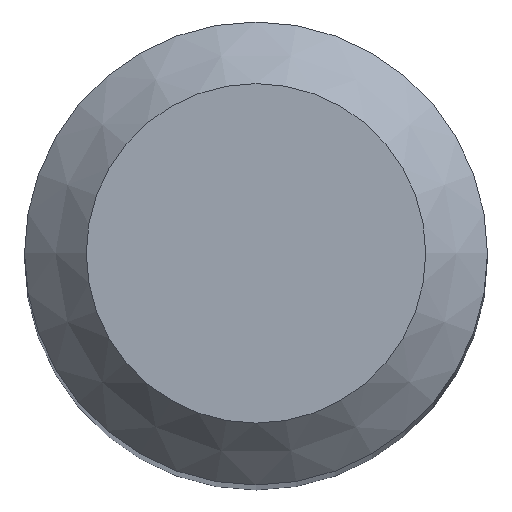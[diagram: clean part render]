
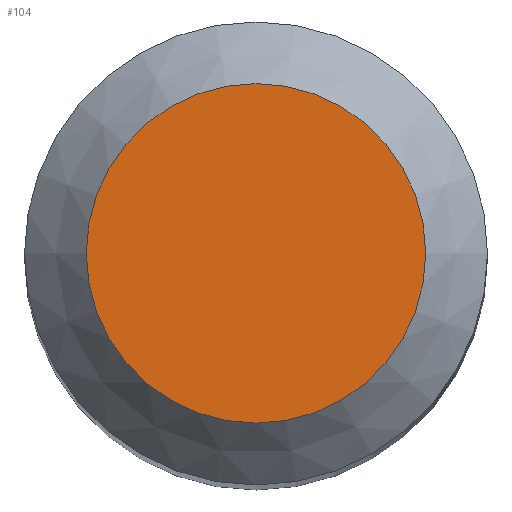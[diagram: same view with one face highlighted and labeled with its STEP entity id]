
A CAD part, top view. The second image highlights one B-rep face of the part: STEP entity #104.
In plain terms, the highlighted planar face has unit normal (0, 0, 1).
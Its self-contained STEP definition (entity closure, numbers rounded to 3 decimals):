
#88=CARTESIAN_POINT('',(2.2,0.0,50.0));
#89=DIRECTION('',(0.0,0.0,1.0));
#90=DIRECTION('',(1.0,0.0,0.0));
#91=AXIS2_PLACEMENT_3D('',#88,#89,#90);
#92=PLANE('',#91);
#93=CARTESIAN_POINT('',(-2.2,0.0,50.0));
#94=VERTEX_POINT('',#93);
#95=CARTESIAN_POINT('',(0.0,0.0,50.0));
#96=DIRECTION('',(0.0,0.0,-1.0));
#97=DIRECTION('',(-1.0,0.0,0.0));
#98=AXIS2_PLACEMENT_3D('',#95,#96,#97);
#99=CIRCLE('',#98,2.2);
#100=EDGE_CURVE('',#94,#94,#99,.T.);
#101=ORIENTED_EDGE('',*,*,#100,.F.);
#102=EDGE_LOOP('',(#101));
#103=FACE_OUTER_BOUND('',#102,.T.);
#104=ADVANCED_FACE('',(#103),#92,.T.);
